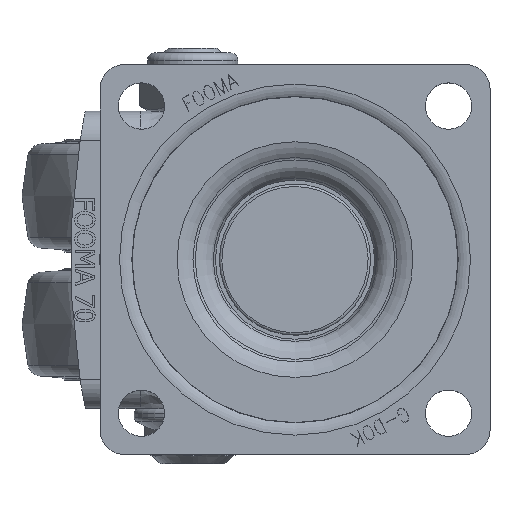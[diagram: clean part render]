
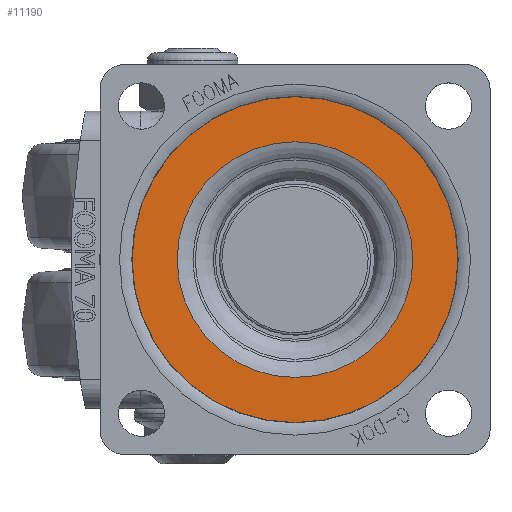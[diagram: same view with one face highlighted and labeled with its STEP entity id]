
A CAD part, top view. The second image highlights one B-rep face of the part: STEP entity #11190.
In plain terms, the highlighted planar face has unit normal (0, 0, 1).
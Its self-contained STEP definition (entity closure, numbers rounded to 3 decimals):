
#493=FACE_BOUND('',#1909,.T.);
#633=PLANE('',#12117);
#1239=FACE_OUTER_BOUND('',#1908,.T.);
#1908=EDGE_LOOP('',(#9195));
#1909=EDGE_LOOP('',(#9196,#9197));
#4312=CIRCLE('',#11503,33.422);
#4658=CIRCLE('',#12112,24.168);
#4659=CIRCLE('',#12113,24.168);
#4710=VERTEX_POINT('',#15411);
#5276=VERTEX_POINT('',#20052);
#5277=VERTEX_POINT('',#20053);
#5812=EDGE_CURVE('',#4710,#4710,#4312,.T.);
#6673=EDGE_CURVE('',#5276,#5277,#4658,.T.);
#6674=EDGE_CURVE('',#5277,#5276,#4659,.T.);
#9195=ORIENTED_EDGE('',*,*,#5812,.T.);
#9196=ORIENTED_EDGE('',*,*,#6673,.T.);
#9197=ORIENTED_EDGE('',*,*,#6674,.T.);
#11190=ADVANCED_FACE('',(#1239,#493),#633,.F.);
#11503=AXIS2_PLACEMENT_3D('',#15412,#12460,#12461);
#12112=AXIS2_PLACEMENT_3D('',#20054,#13975,#13976);
#12113=AXIS2_PLACEMENT_3D('',#20055,#13977,#13978);
#12117=AXIS2_PLACEMENT_3D('',#20061,#13985,#13986);
#12460=DIRECTION('center_axis',(0.,0.,
1.));
#12461=DIRECTION('ref_axis',(-1.,0.,0.));
#13975=DIRECTION('center_axis',(0.,0.,
-1.));
#13976=DIRECTION('ref_axis',(1.,0.,0.));
#13977=DIRECTION('center_axis',(0.,0.,
-1.));
#13978=DIRECTION('ref_axis',(1.,0.,0.));
#13985=DIRECTION('center_axis',(0.,0.,
-1.));
#13986=DIRECTION('ref_axis',(-1.,0.,0.));
#15411=CARTESIAN_POINT('',(33.422,0.,3.445));
#15412=CARTESIAN_POINT('Origin',(0.,0.,
3.445));
#20052=CARTESIAN_POINT('',(-24.168,0.,3.445));
#20053=CARTESIAN_POINT('',(24.168,0.,3.445));
#20054=CARTESIAN_POINT('Origin',(0.,0.,
3.445));
#20055=CARTESIAN_POINT('Origin',(0.,0.,
3.445));
#20061=CARTESIAN_POINT('Origin',(-24.168,0.,
3.445));
